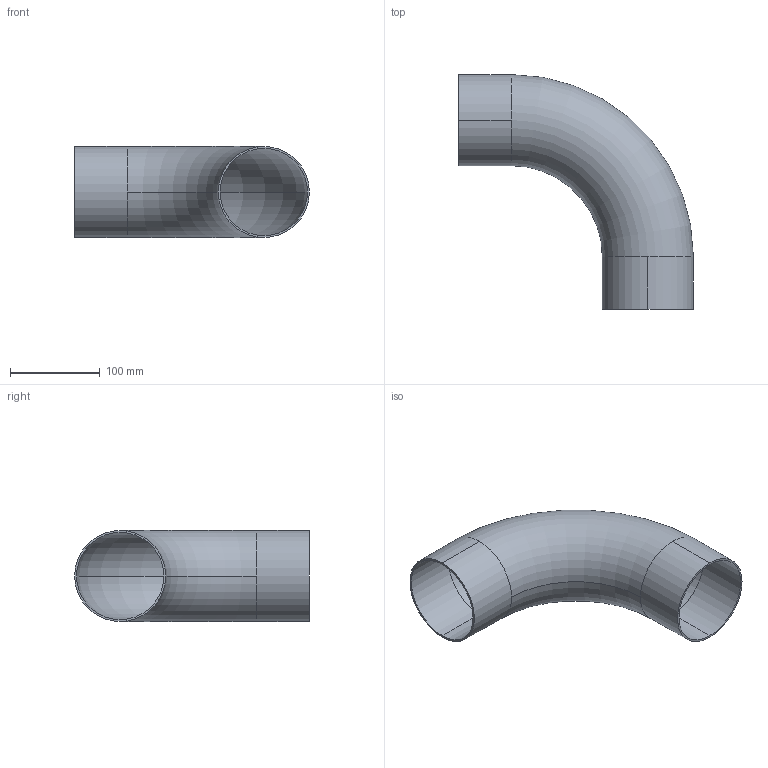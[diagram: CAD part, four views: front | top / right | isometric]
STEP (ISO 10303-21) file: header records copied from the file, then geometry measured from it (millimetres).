
FILE_DESCRIPTION (( 'STEP AP203' ), '1' );
FILE_NAME ('E2S4.0.STEP', '2018-04-30T18:00:08', ( 'vneprd' ), ( 'Microsoft' ), 'SwSTEP 2.0', 'SolidWorks 2014', '' );
FILE_SCHEMA (( 'CONFIG_CONTROL_DESIGN' ));
Length unit declared in the file: inch
Products named in the file (1): E2S4.0
Bounding box: 261.92 x 261.92 x 101.6 mm (x, y, z)
Volume: 235137.1 mm3; surface area: 224387 mm2
Topology: 1 solids, 1 shells, 14 faces, 36 edges, 24 vertices
Faces by surface type: cylinder 8, torus 4, plane 2
Entity records: 531 total; most frequent: DIRECTION 94, CARTESIAN_POINT 75, ORIENTED_EDGE 72, AXIS2_PLACEMENT_3D 43, EDGE_CURVE 36, CIRCLE 28, VERTEX_POINT 24, EDGE_LOOP 16
